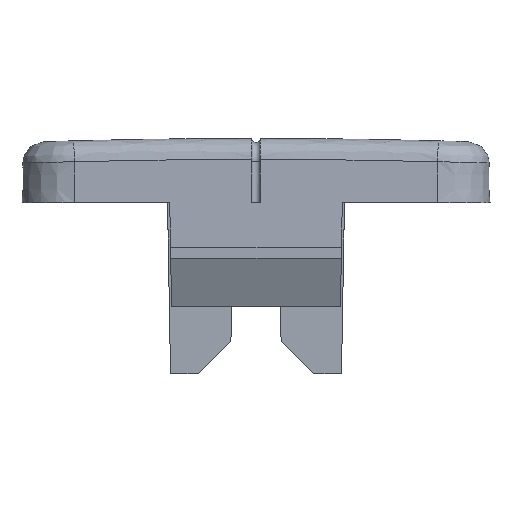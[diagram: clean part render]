
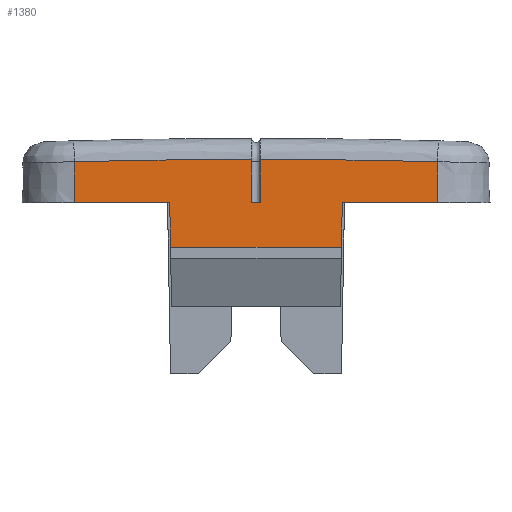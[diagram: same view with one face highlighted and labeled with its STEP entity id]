
A CAD part, top view. The second image highlights one B-rep face of the part: STEP entity #1380.
In plain terms, the highlighted planar face has unit normal (0, 0.018, 1).
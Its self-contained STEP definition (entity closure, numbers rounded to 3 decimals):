
#106=CARTESIAN_POINT('',(0.2,-1.095,2.417));
#107=VERTEX_POINT('',#106);
#108=CARTESIAN_POINT('',(-0.2,-1.095,2.417));
#109=VERTEX_POINT('',#108);
#252=CARTESIAN_POINT('',(-0.2,-0.983,2.415));
#253=VERTEX_POINT('',#252);
#269=CARTESIAN_POINT('',(-0.2,-1.095,2.417));
#270=CARTESIAN_POINT('',(-0.2,-1.064,2.416));
#271=CARTESIAN_POINT('',(-0.2,-1.026,2.416));
#272=CARTESIAN_POINT('',(-0.2,-0.994,2.415));
#273=CARTESIAN_POINT('',(-0.2,-0.99,2.415));
#274=CARTESIAN_POINT('',(-0.2,-0.986,2.415));
#275=CARTESIAN_POINT('',(-0.2,-0.983,2.415));
#276=B_SPLINE_CURVE_WITH_KNOTS('',3,(#269,#270,#271,#272,#273,#274,#275),.UNSPECIFIED.,.F.,.U.,(4,3,4),(0.133,0.143,0.144),.UNSPECIFIED.);
#277=EDGE_CURVE('',#109,#253,#276,.T.);
#280=CARTESIAN_POINT('',(0.2,-0.983,2.415));
#281=VERTEX_POINT('',#280);
#282=CARTESIAN_POINT('',(0.2,-0.983,2.415));
#283=CARTESIAN_POINT('',(0.2,-1.015,2.415));
#284=CARTESIAN_POINT('',(0.2,-1.051,2.416));
#285=CARTESIAN_POINT('',(0.2,-1.084,2.417));
#286=CARTESIAN_POINT('',(0.2,-1.088,2.417));
#287=CARTESIAN_POINT('',(0.2,-1.092,2.417));
#288=CARTESIAN_POINT('',(0.2,-1.095,2.417));
#289=B_SPLINE_CURVE_WITH_KNOTS('',3,(#282,#283,#284,#285,#286,#287,#288),.UNSPECIFIED.,.F.,.U.,(4,3,4),(-0.001,0.009,0.01),.UNSPECIFIED.);
#290=EDGE_CURVE('',#281,#107,#289,.T.);
#314=CARTESIAN_POINT('',(-0.2,-3.,2.45));
#315=VERTEX_POINT('',#314);
#316=CARTESIAN_POINT('',(-0.2,-3.,2.45));
#317=DIRECTION('',(0.0,1.,-0.017));
#318=VECTOR('',#317,1.905);
#319=LINE('',#316,#318);
#320=EDGE_CURVE('',#315,#109,#319,.T.);
#322=CARTESIAN_POINT('',(0.2,-3.,2.45));
#323=VERTEX_POINT('',#322);
#331=CARTESIAN_POINT('',(0.2,-1.095,2.417));
#332=DIRECTION('',(0.0,-1.,0.017));
#333=VECTOR('',#332,1.905);
#334=LINE('',#331,#333);
#335=EDGE_CURVE('',#107,#323,#334,.T.);
#346=CARTESIAN_POINT('',(0.2,-3.,2.45));
#347=DIRECTION('',(-1.0,0.0,0.0));
#348=VECTOR('',#347,0.4);
#349=LINE('',#346,#348);
#350=EDGE_CURVE('',#323,#315,#349,.T.);
#578=CARTESIAN_POINT('',(8.5,-1.095,2.417));
#579=VERTEX_POINT('',#578);
#580=CARTESIAN_POINT('',(0.,-320.983,8.));
#581=DIRECTION('',(0.,-0.017,-1.));
#582=DIRECTION('',(0.,1.,-0.017));
#583=AXIS2_PLACEMENT_3D('',#580,#581,#582);
#584=ELLIPSE('',#583,320.049,320.0);
#585=EDGE_CURVE('',#281,#579,#584,.T.);
#1060=CARTESIAN_POINT('',(-4.037,-3.,2.45));
#1061=VERTEX_POINT('',#1060);
#1068=CARTESIAN_POINT('',(-8.5,-3.,2.45));
#1069=VERTEX_POINT('',#1068);
#1070=CARTESIAN_POINT('',(-4.037,-3.,2.45));
#1071=DIRECTION('',(-1.0,0.0,0.0));
#1072=VECTOR('',#1071,4.463);
#1073=LINE('',#1070,#1072);
#1074=EDGE_CURVE('',#1061,#1069,#1073,.T.);
#1101=CARTESIAN_POINT('',(8.5,-3.,2.45));
#1102=VERTEX_POINT('',#1101);
#1110=CARTESIAN_POINT('',(4.037,-3.,2.45));
#1111=VERTEX_POINT('',#1110);
#1112=CARTESIAN_POINT('',(8.5,-3.,2.45));
#1113=DIRECTION('',(-1.0,0.0,0.0));
#1114=VECTOR('',#1113,4.463);
#1115=LINE('',#1112,#1114);
#1116=EDGE_CURVE('',#1102,#1111,#1115,.T.);
#1305=CARTESIAN_POINT('',(-4.0,-5.1,2.487));
#1306=VERTEX_POINT('',#1305);
#1314=CARTESIAN_POINT('',(4.0,-5.1,2.487));
#1315=VERTEX_POINT('',#1314);
#1322=CARTESIAN_POINT('',(4.0,-5.1,2.487));
#1323=DIRECTION('',(-1.0,0.0,0.0));
#1324=VECTOR('',#1323,8.0);
#1325=LINE('',#1322,#1324);
#1326=EDGE_CURVE('',#1315,#1306,#1325,.T.);
#1331=CARTESIAN_POINT('',(-8.5,0.,2.398));
#1332=DIRECTION('',(0.,0.017,1.));
#1333=DIRECTION('',(1.0,0.0,0.0));
#1334=AXIS2_PLACEMENT_3D('',#1331,#1332,#1333);
#1335=PLANE('',#1334);
#1336=ORIENTED_EDGE('',*,*,#277,.T.);
#1337=CARTESIAN_POINT('',(-8.5,-1.095,2.417));
#1338=VERTEX_POINT('',#1337);
#1339=CARTESIAN_POINT('',(0.,-320.983,8.));
#1340=DIRECTION('',(0.,-0.017,-1.));
#1341=DIRECTION('',(0.,1.,-0.017));
#1342=AXIS2_PLACEMENT_3D('',#1339,#1340,#1341);
#1343=ELLIPSE('',#1342,320.049,320.0);
#1344=EDGE_CURVE('',#1338,#253,#1343,.T.);
#1345=ORIENTED_EDGE('',*,*,#1344,.F.);
#1346=CARTESIAN_POINT('',(-8.5,-1.095,2.417));
#1347=DIRECTION('',(0.0,-1.,0.017));
#1348=VECTOR('',#1347,1.905);
#1349=LINE('',#1346,#1348);
#1350=EDGE_CURVE('',#1338,#1069,#1349,.T.);
#1351=ORIENTED_EDGE('',*,*,#1350,.T.);
#1352=ORIENTED_EDGE('',*,*,#1074,.F.);
#1353=CARTESIAN_POINT('',(-4.037,-3.,2.45));
#1354=DIRECTION('',(0.017,-1.,0.017));
#1355=VECTOR('',#1354,2.101);
#1356=LINE('',#1353,#1355);
#1357=EDGE_CURVE('',#1061,#1306,#1356,.T.);
#1358=ORIENTED_EDGE('',*,*,#1357,.T.);
#1359=ORIENTED_EDGE('',*,*,#1326,.F.);
#1360=CARTESIAN_POINT('',(4.037,-3.,2.45));
#1361=DIRECTION('',(-0.017,-1.,0.017));
#1362=VECTOR('',#1361,2.101);
#1363=LINE('',#1360,#1362);
#1364=EDGE_CURVE('',#1315,#1111,#1363,.F.);
#1365=ORIENTED_EDGE('',*,*,#1364,.T.);
#1366=ORIENTED_EDGE('',*,*,#1116,.F.);
#1367=CARTESIAN_POINT('',(8.5,-3.,2.45));
#1368=DIRECTION('',(0.0,1.,-0.017));
#1369=VECTOR('',#1368,1.905);
#1370=LINE('',#1367,#1369);
#1371=EDGE_CURVE('',#1102,#579,#1370,.T.);
#1372=ORIENTED_EDGE('',*,*,#1371,.T.);
#1373=ORIENTED_EDGE('',*,*,#585,.F.);
#1374=ORIENTED_EDGE('',*,*,#290,.T.);
#1375=ORIENTED_EDGE('',*,*,#335,.T.);
#1376=ORIENTED_EDGE('',*,*,#350,.T.);
#1377=ORIENTED_EDGE('',*,*,#320,.T.);
#1378=EDGE_LOOP('',(#1336,#1345,#1351,#1352,#1358,#1359,#1365,#1366,#1372,#1373,#1374,#1375,#1376,#1377));
#1379=FACE_OUTER_BOUND('',#1378,.T.);
#1380=ADVANCED_FACE('',(#1379),#1335,.T.);
